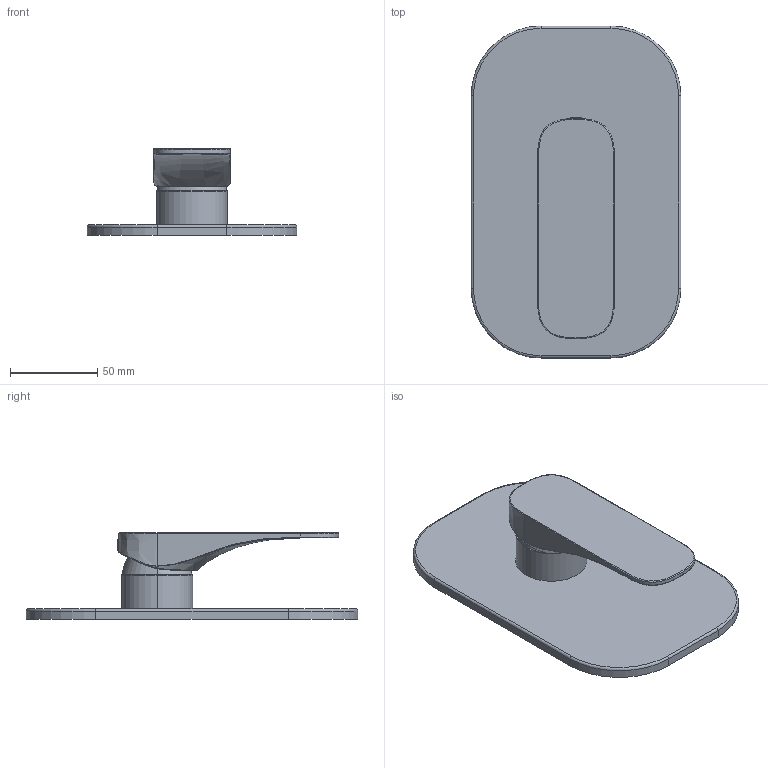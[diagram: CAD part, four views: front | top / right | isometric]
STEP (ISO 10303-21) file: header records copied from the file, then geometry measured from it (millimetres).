
FILE_DESCRIPTION((''),'2;1');
FILE_NAME('F3729X1','2012-10-25T',('ivanv'),(''),'PRO/ENGINEER BY PARAMETRIC TECHNOLOGY CORPORATION, 2011370','PRO/ENGINEER BY PARAMETRIC TECHNOLOGY CORPORATION, 2011370','');
FILE_SCHEMA(('CONFIG_CONTROL_DESIGN'));
Length unit declared in the file: millimetre
Products named in the file (1): F3729X1
Bounding box: 120 x 190 x 49.5 mm (x, y, z)
Volume: 174848.4 mm3; surface area: 70586.3 mm2
Topology: 1 solids, 2 shells, 198 faces, 494 edges, 301 vertices
Faces by surface type: plane 73, cylinder 56, bspline 32, cone 17, torus 9, extrusion 9, sphere 2
Entity records: 11167 total; most frequent: CARTESIAN_POINT 6773, ORIENTED_EDGE 984, DIRECTION 772, EDGE_CURVE 492, VERTEX_POINT 301, AXIS2_PLACEMENT_3D 274, VECTOR 224, LINE 215
